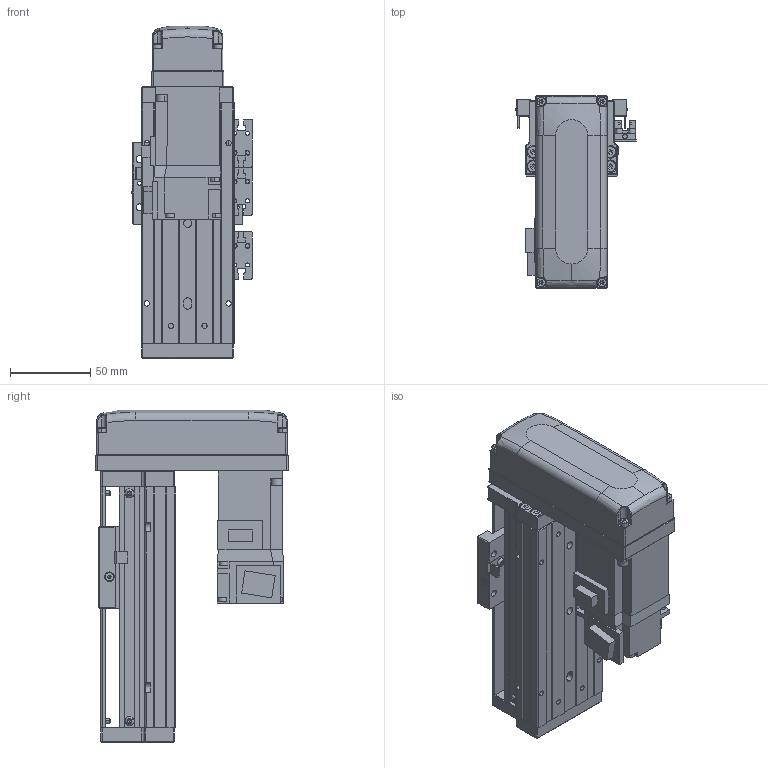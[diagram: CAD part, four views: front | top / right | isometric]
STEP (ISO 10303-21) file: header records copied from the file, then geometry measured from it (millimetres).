
FILE_DESCRIPTION (( 'STEP AP203' ), '1' );
FILE_NAME ('KTHA50-50-BM-M10-C4L.step', '2022-03-19T07:11:43', ( '微软用户' ), ( '微软中国' ), 'SwSTEP 2.0', 'SolidWorks 2020', '' );
FILE_SCHEMA (( 'CONFIG_CONTROL_DESIGN' ));
Length unit declared in the file: millimetre
Products named in the file (18): CTHA60-021; EE_SX911P_R; GBT 70.3-M3℅6; GBT77-2000 M3×3; HG-KR13（三菱）; KTHA50-001_150; GBT 70.1-M3℅6; CTHA50-015-2_CTHA60-015-2; KTHA50-002; CTHA60-017; CTHA60-033; KTHA50-004; GBT 70.1-M4×12; GBT 70.1-M3×15; KTHA50-005; CTHA60-016; KTHA50-50-BM-M10-C4L; GB¨uT 70.2-M3¡Á6_M3¡Á6
Assembly tree (53 placements, depth 2):
  KTHA50-50-BM-M10-C4L
    KTHA50-001_150
    KTHA50-002
    KTHA50-004
    KTHA50-005
    GB¨uT 70.2-M3¡Á6_M3¡Á6  x6
    EE_SX911P_R  x3
    GBT77-2000 M3×3  x6
    GBT 70.1-M3℅6  x6
    CTHA60-017  x3
    GBT 70.1-M4×12  x10
    CTHA60-016  x2
    CTHA60-021  x2
    GBT 70.3-M3℅6  x4
    HG-KR13（三菱）
    CTHA50-015-2_CTHA60-015-2
    CTHA60-033
    GBT 70.1-M3×15  x4
Bounding box: 75.22 x 120 x 207 mm (x, y, z)
Volume: 633899.9 mm3; surface area: 157450.5 mm2
Topology: 56 solids, 56 shells, 2183 faces, 5127 edges, 3136 vertices
Faces by surface type: plane 1216, cylinder 526, cone 299, torus 100, bspline 26, sphere 16
Entity records: 35651 total; most frequent: CARTESIAN_POINT 6786, DIRECTION 5525, ORIENTED_EDGE 5266, EDGE_CURVE 2633, AXIS2_PLACEMENT_3D 1891, VECTOR 1743, LINE 1743, VERTEX_POINT 1650
